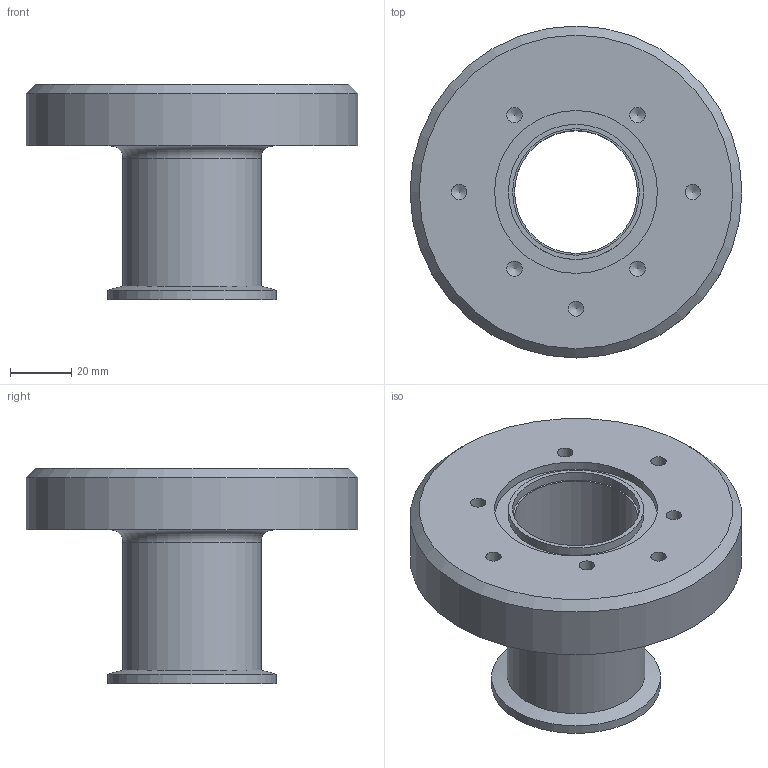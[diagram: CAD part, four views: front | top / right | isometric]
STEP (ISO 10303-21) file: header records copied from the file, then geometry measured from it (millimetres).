
FILE_DESCRIPTION(/* description */ (''),/* implementation_level */ '2;1');
FILE_NAME(/* name */ '101_cooling_FT-180.stp',/* time_stamp */ '2020-11-09T14:44:46+01:00',/* author */ (''),/* organization */ (''),/* preprocessor_version */ 'ST-DEVELOPER v16.7',/* originating_system */ 'SIEMENS PLM Software NX 12.0',/* authorisation */ '');
FILE_SCHEMA (('AUTOMOTIVE_DESIGN { 1 0 10303 214 3 1 1 1 }'));
Length unit declared in the file: millimetre
Products named in the file (1): bez430C4A55itfe
Bounding box: 108 x 108 x 70 mm (x, y, z)
Volume: 171449.4 mm3; surface area: 42178.5 mm2
Topology: 1 solids, 1 shells, 38 faces, 90 edges, 59 vertices
Faces by surface type: cylinder 18, cone 12, plane 7, torus 1
Full cylindrical faces by diameter (mm): 5 x10, 40 x1, 41.2 x2, 44 x1, 45 x1, 53 x1, 55 x1, 108 x1
Entity records: 840 total; most frequent: DIRECTION 154, CARTESIAN_POINT 125, FACE_BOUND 86, AXIS2_PLACEMENT_3D 77, EDGE_LOOP 76, ORIENTED_EDGE 76, VERTEX_POINT 48, ADVANCED_FACE 38
